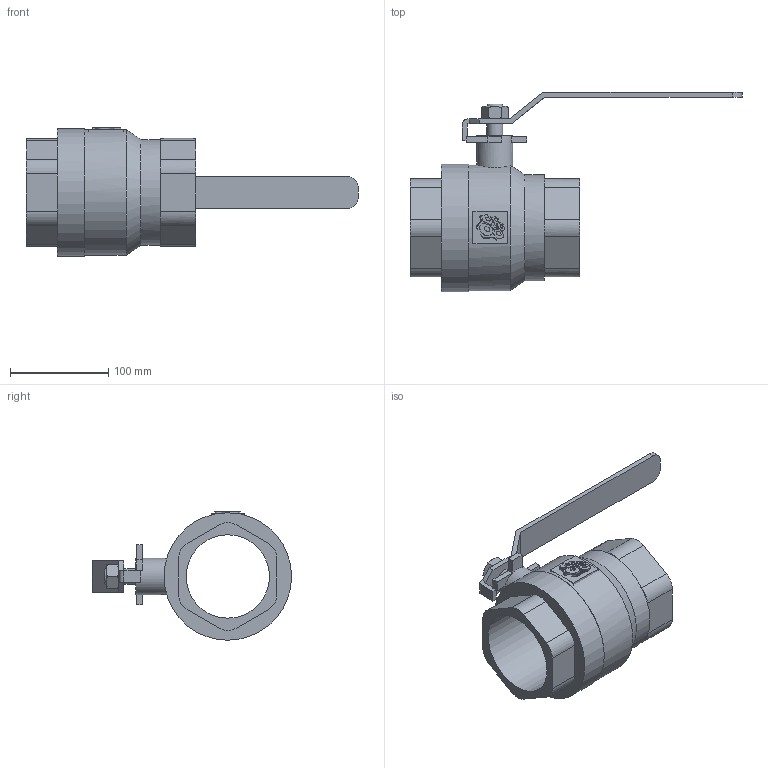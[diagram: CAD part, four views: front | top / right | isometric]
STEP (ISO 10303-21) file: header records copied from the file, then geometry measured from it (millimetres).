
FILE_DESCRIPTION(('STEP AP203'), '1');
FILE_NAME('7014-080-63', '', ('UNSPECIFIED'), ('UNSPECIFIED'), 'C3D Converter', 'C3D Toolkit', '');
FILE_SCHEMA(('CONFIG_CONTROL_DESIGN'));
Length unit declared in the file: millimetre
Bounding box: 338.5 x 203 x 131 mm (x, y, z)
Volume: 967886.2 mm3; surface area: 156837.5 mm2
Topology: 10 solids, 10 shells, 933 faces, 2707 edges, 1801 vertices
Faces by surface type: plane 908, cylinder 21, cone 3, torus 1
Full cylindrical faces by diameter (mm): 16 x1, 37 x1, 85 x1, 108 x1, 128 x1, 130 x1
Entity records: 38523 total; most frequent: CARTESIAN_POINT 6298, ORIENTED_EDGE 5392, DIRECTION 4638, EDGE_CURVE 2696, LINE 2588, VECTOR 2588, VERTEX_POINT 1801, AXIS2_PLACEMENT_3D 1025
